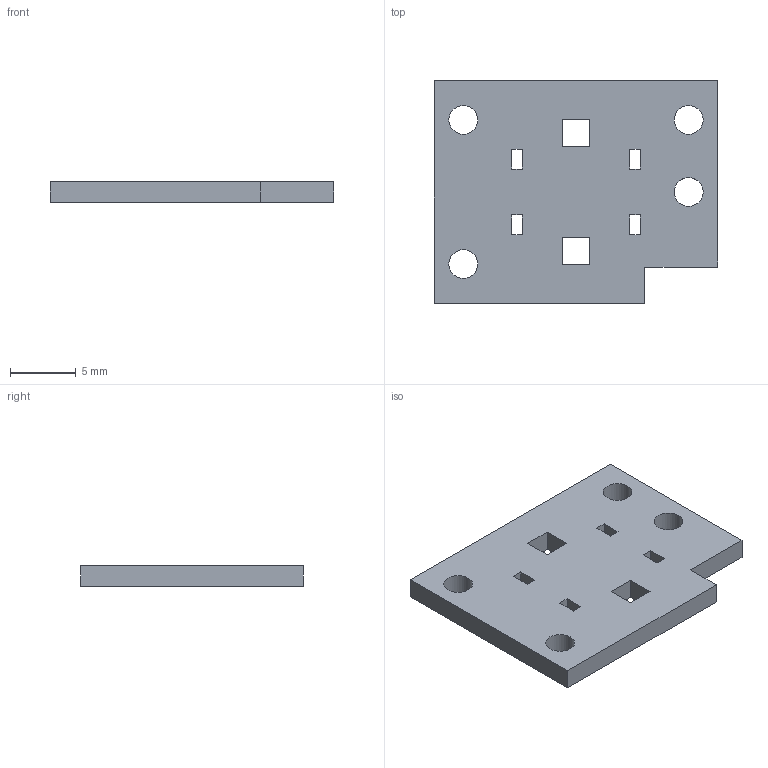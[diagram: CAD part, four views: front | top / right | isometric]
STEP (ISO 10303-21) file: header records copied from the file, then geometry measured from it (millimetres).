
FILE_DESCRIPTION(('Open CASCADE Model'),'2;1');
FILE_NAME('Open CASCADE Shape Model','2026-09-08T13:32:07',('Author'),( 'Open CASCADE'),'Open CASCADE STEP processor 7.7','Open CASCADE 7.7' ,'Unknown');
FILE_SCHEMA(('AUTOMOTIVE_DESIGN { 1 0 10303 214 1 1 1 1 }'));
Length unit declared in the file: millimetre
Products named in the file (1): Open CASCADE STEP translator 7.7 29
Bounding box: 21.6 x 17 x 1.6 mm (x, y, z)
Volume: 516.8 mm3; surface area: 870 mm2
Topology: 1 solids, 1 shells, 36 faces, 102 edges, 68 vertices
Faces by surface type: plane 32, cylinder 4
Full cylindrical faces by diameter (mm): 2.2 x4
Entity records: 2530 total; most frequent: CARTESIAN_POINT 411, DIRECTION 388, LINE 290, VECTOR 290, ORIENTED_EDGE 204, PCURVE 204, DEFINITIONAL_REPRESENTATION 204, EDGE_CURVE 102
